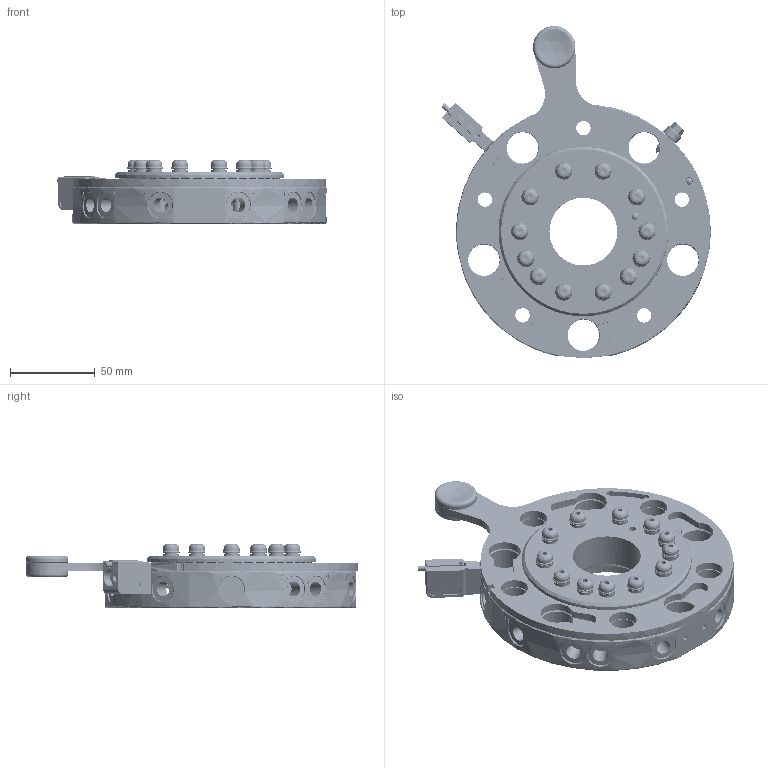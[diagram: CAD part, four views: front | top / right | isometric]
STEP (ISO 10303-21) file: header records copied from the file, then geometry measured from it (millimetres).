
FILE_DESCRIPTION (( 'STEP AP203' ), '1' );
FILE_NAME ('QC-R160K.STEP', '2024-03-28T10:24:31', ( '微软用户' ), ( '微软中国' ), 'SwSTEP 2.0', 'SolidWorks 2018', '' );
FILE_SCHEMA (( 'CONFIG_CONTROL_DESIGN' ));
Products named in the file (1): QC-R160K
Bounding box: 158.69 x 195.64 x 37.71 mm (x, y, z)
Volume: 394633.3 mm3; surface area: 109462.3 mm2
Topology: 74 solids, 74 shells, 3867 faces, 8836 edges, 5242 vertices
Faces by surface type: cone 1542, cylinder 1284, plane 672, bspline 234, torus 112, sphere 23
Entity records: 167656 total; most frequent: CARTESIAN_POINT 83545, ORIENTED_EDGE 17520, DIRECTION 17220, EDGE_CURVE 8760, AXIS2_PLACEMENT_3D 6842, VERTEX_POINT 5222, EDGE_LOOP 4196, ADVANCED_FACE 3866
